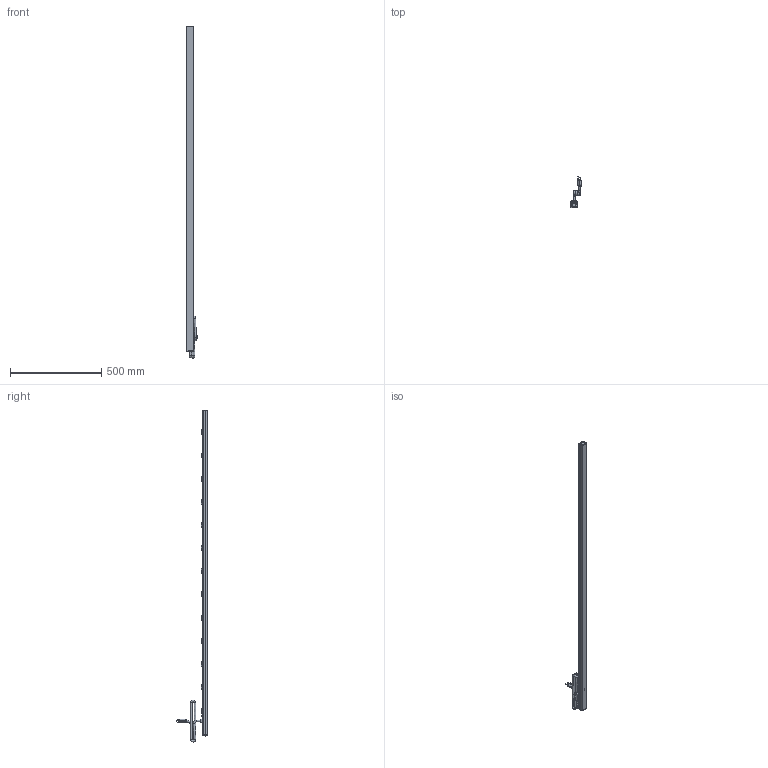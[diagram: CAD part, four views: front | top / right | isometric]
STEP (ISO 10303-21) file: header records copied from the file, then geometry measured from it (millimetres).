
FILE_DESCRIPTION((''),'2;1');
FILE_NAME('E:\Dutton\Manufacturing\drawings\Updated 2009\Vertical Rack Mount Strips\1587 Series\STEP''s\1587H12A1.stp','2010-01-19T14:23:20',('tfoster'),(''),'Autodesk Inventor 2010','Autodesk Inventor 2010','');
FILE_SCHEMA(('AUTOMOTIVE_DESIGN { 1 0 10303 214 1 1 1 1 }'));
Length unit declared in the file: inch
Products named in the file (14): 1587H12A1; 1587H12 top; 1587 bottom; End Cap; End Cap w breaker; Reset Switch; #6 - 0.375 Type A screw; Cored 2; toothwasher; round head 1-way 8-32 x 0.5 screw; Power Switch Assembly; Power Switch; Power Switch pt; Receptacle
Assembly tree (27 placements, depth 3):
  1587H12A1
    1587H12 top
    1587 bottom
    End Cap
    End Cap w breaker
    Reset Switch
    #6 - 0.375 Type A screw  x4
    Cored 2
    toothwasher
    round head 1-way 8-32 x 0.5 screw
    Power Switch Assembly
      Power Switch
      Power Switch pt
    Receptacle  x12
Bounding box: 60.19 x 170.82 x 1821.58 mm (x, y, z)
Volume: 668050.6 mm3; surface area: 669691.6 mm2
Topology: 26 solids, 26 shells, 1335 faces, 3758 edges, 2459 vertices
Faces by surface type: plane 810, cylinder 288, bspline 139, sphere 54, cone 29, torus 15
Full cylindrical faces by diameter (mm): 1 x2, 1.803 x3, 1.905 x2, 3 x2, 3.175 x12, 4.3 x1, 4.775 x1, 4.826 x1, 7.849 x1, 9.5 x5, 11 x1, 15.621 x1, 19.05 x2
Entity records: 27991 total; most frequent: CARTESIAN_POINT 9840, ORIENTED_EDGE 3920, DIRECTION 3259, EDGE_CURVE 1960, VERTEX_POINT 1380, VECTOR 1155, LINE 1155, AXIS2_PLACEMENT_3D 1052
